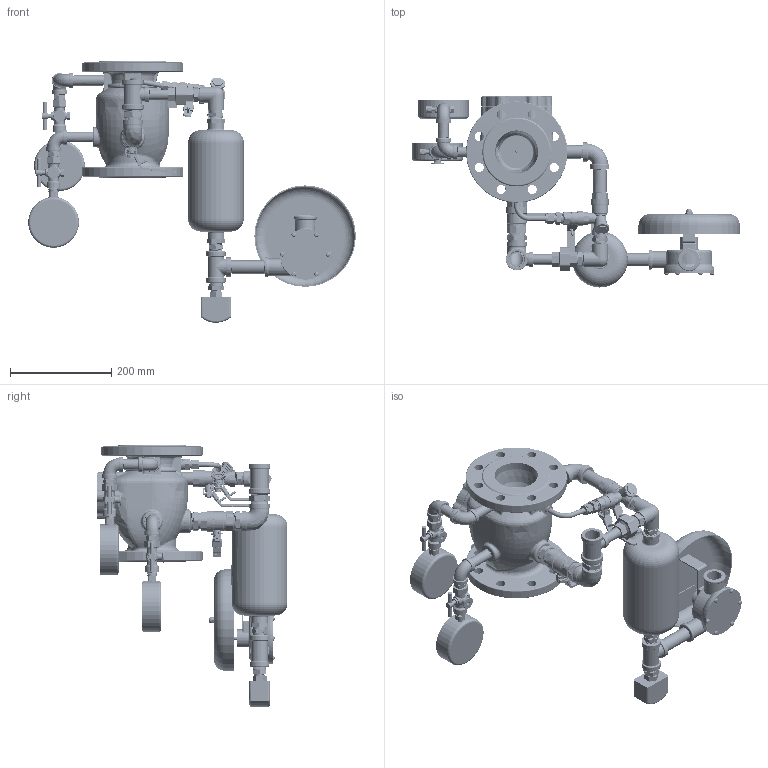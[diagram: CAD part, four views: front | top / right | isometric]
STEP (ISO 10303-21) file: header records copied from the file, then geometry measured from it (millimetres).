
FILE_DESCRIPTION((''),'2;1');
FILE_NAME('800001_ASM','2024-04-01T19:48:17',('administrator'),(''),'CREO PARAMETRIC BY PTC INC, 2021404','CREO PARAMETRIC BY PTC INC, 2021404','');
FILE_SCHEMA(('CONFIG_CONTROL_DESIGN'));
Length unit declared in the file: millimetre
Products named in the file (42): HHB-80BJF-FT-2018-GM; 8000; 800003; HHB-80BJF-FG-2018; M10000; 800004; 800005; 800006; 000; 0001; _DN800001; _0001; G8000; 0003; G5000; 0004; 0005; G7000; 1000001; 0006; 0008; 0009; 00; LDN8000; 0013; 0014; 0015; 0016; 0017; 0018; 0019; 0020; G6000; 0021; 0022; 002; 0024; G9000; 0025; 0026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
Assembly tree (59 placements, depth 2):
  800001_ASM
    HHB-80BJF-FT-2018-GM
    8000
    800003
    HHB-80BJF-FG-2018
    M10000  x6
    800004
    800005
    800006
    000
    0001
    _DN800001
    _0001
    G8000
    0003  x3
    G5000
    0004  x3
    0005  x2
    G7000
    1000001  x2
    G7000  x2
    0006
    0008
    0009
    00  x2
    LDN8000
    0013  x3
    0014
    0015  x2
    0016
    0017  x3
    0018
    0019
    0020
    G6000
    0021
    0022
    002
    0024
    G9000
    0025
    0026
Bounding box: 646.37 x 376.5 x 515.94 mm (x, y, z)
Volume: 3714784.3 mm3; surface area: 1276962.8 mm2
Topology: 61 solids, 68 shells, 9118 faces, 23873 edges, 15312 vertices
Faces by surface type: plane 4327, cylinder 1568, bspline 1511, cone 926, torus 475, extrusion 222, sphere 85, revolution 4
Entity records: 362393 total; most frequent: CARTESIAN_POINT 179255, ORIENTED_EDGE 40918, DIRECTION 33155, EDGE_CURVE 20461, VERTEX_POINT 13124, VECTOR 12163, LINE 12050, AXIS2_PLACEMENT_3D 10494
